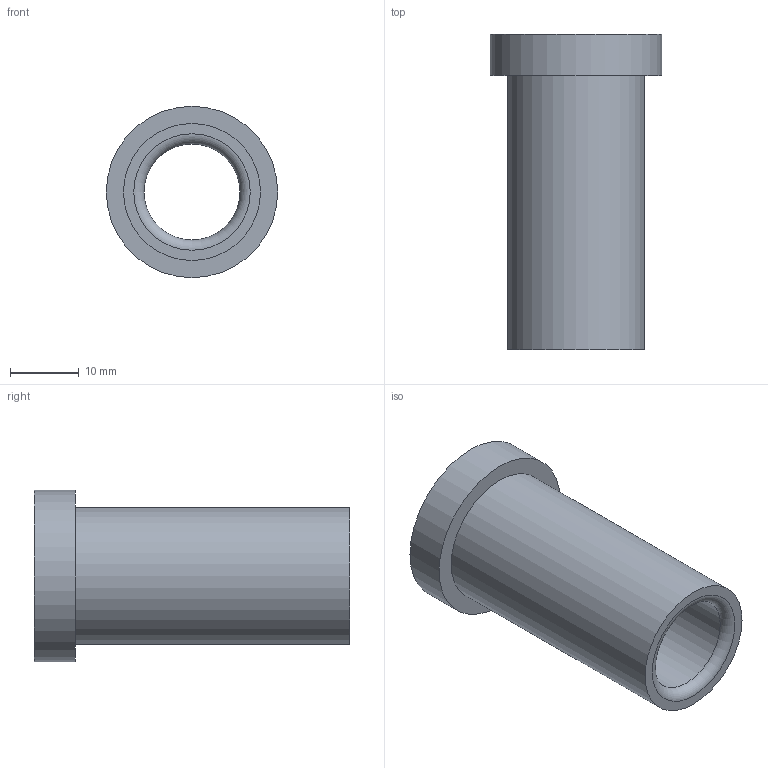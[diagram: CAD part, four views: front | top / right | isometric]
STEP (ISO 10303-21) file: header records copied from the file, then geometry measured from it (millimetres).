
FILE_DESCRIPTION(/* description */ ('STEP AP214'),/* implementation_level */ '2;1');
FILE_NAME(/* name */ '03_12_17841',/* time_stamp */ '2023-06-15T11:35:24+02:00',/* author */ ('License CC BY-ND 4.0'),/* organization */ ('CADENAS'),/* preprocessor_version */ 'ST-DEVELOPER v19.3',/* originating_system */ 'PARTsolutions',/* authorisation */ ' ');
FILE_SCHEMA (('AUTOMOTIVE_DESIGN {1 0 10303 214 3 1 1}'));
Length unit declared in the file: millimetre
Products named in the file (1): VA_Bushing_17841
Bounding box: 25 x 46 x 25 mm (x, y, z)
Volume: 8261.1 mm3; surface area: 5643.1 mm2
Topology: 1 solids, 1 shells, 10 faces, 16 edges, 10 vertices
Faces by surface type: cylinder 4, plane 4, torus 2
Full cylindrical faces by diameter (mm): 14 x1, 14.6 x1, 20 x1, 25 x1
Entity records: 302 total; most frequent: DIRECTION 42, CARTESIAN_POINT 31, AXIS2_PLACEMENT_3D 21, ORIENTED_EDGE 20, EDGE_LOOP 20, FACE_BOUND 20, EDGE_CURVE 10, VERTEX_POINT 10
